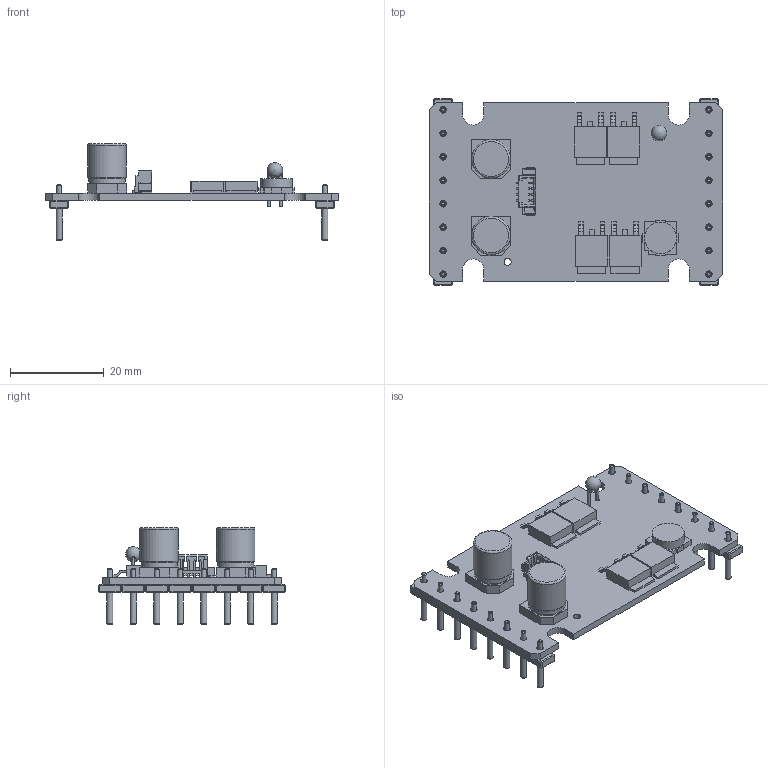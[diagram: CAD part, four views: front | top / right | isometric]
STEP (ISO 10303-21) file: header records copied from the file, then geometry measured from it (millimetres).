
FILE_DESCRIPTION(/* description */ (''),/* implementation_level */ '2;1');
FILE_NAME(/* name */ 'MCDC_3003.stp',/* time_stamp */ '2011-11-10T10:54:10+01:00',/* author */ ('DR. FRITZ FAULHABER GmbH & Co. KG'),/* organization */ ('DR. FRITZ FAULHABER GmbH & Co. KG'),/* preprocessor_version */ 'ST-DEVELOPER v11',/* originating_system */ 'SIEMENS PLM Software NX 7.5',/* authorisation */ '');
FILE_SCHEMA (('AUTOMOTIVE_DESIGN { 1 0 10303 214 1 1 1 1 }'));
Length unit declared in the file: millimetre
Products named in the file (1): hugeBC0Bfrz1
Bounding box: 62.5 x 39.8 x 20.65 mm (x, y, z)
Volume: 5980.6 mm3; surface area: 7418.8 mm2
Topology: 2 solids, 2 shells, 1112 faces, 2681 edges, 1630 vertices
Faces by surface type: plane 961, cylinder 108, cone 32, torus 8, bspline 2, sphere 1
Full cylindrical faces by diameter (mm): 0.6 x2, 0.8 x2, 1 x16, 1.3 x16, 1.4 x16, 1.5 x1, 6.8 x1, 7.7 x2, 8.2 x2
Entity records: 38696 total; most frequent: CARTESIAN_POINT 5673, ORIENTED_EDGE 5140, DIRECTION 5044, EDGE_CURVE 2570, LINE 2310, VECTOR 2310, VERTEX_POINT 1620, AXIS2_PLACEMENT_3D 1367
